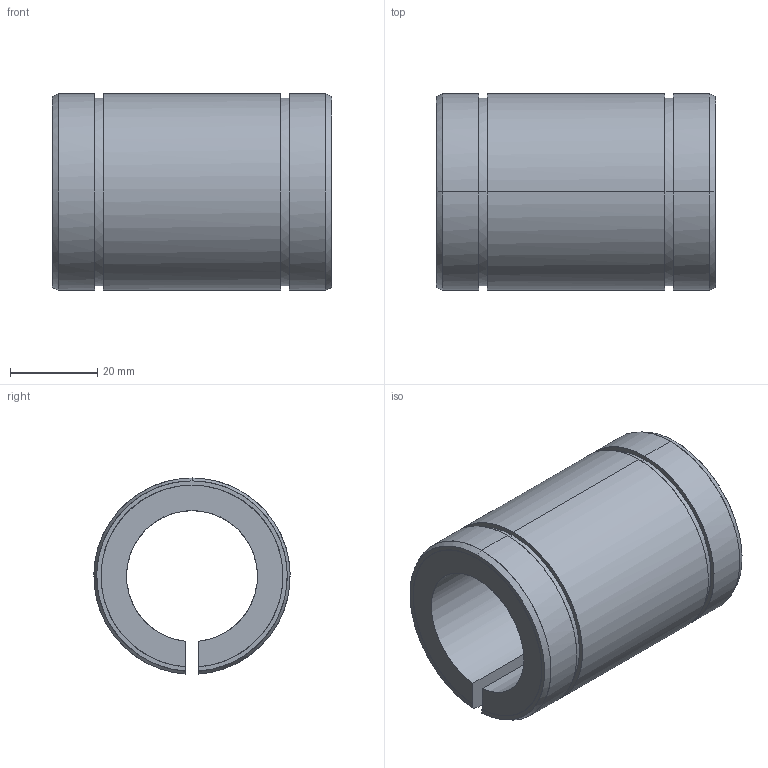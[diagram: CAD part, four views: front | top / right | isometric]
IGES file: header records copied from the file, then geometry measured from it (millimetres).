
Global section: file name: No Iges File Name specified; native system: AutoDesk Inventor R10; preprocessor: AutoDesk Inventor Iges Exporter R10; author: No Author specified; organization: No Organization specified; date: 20101208.100817; units: millimetre
Bounding box: 64 x 44.98 x 44.95 mm (x, y, z)
Surface area: 17749.9 mm2 (no closed solid volume)
Topology: 0 solids, 0 shells, 30 faces, 256 edges, 256 vertices
Faces by surface type: bspline 30
